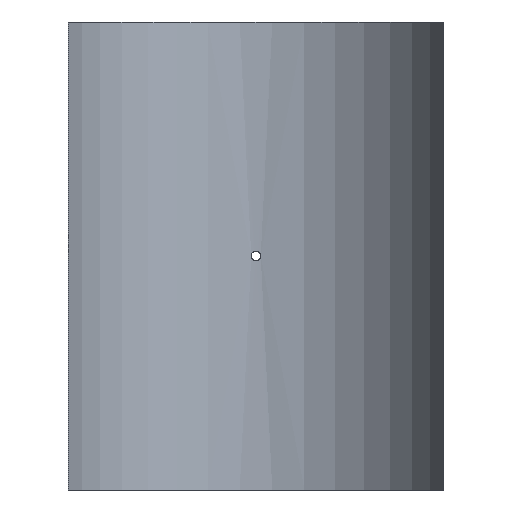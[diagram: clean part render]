
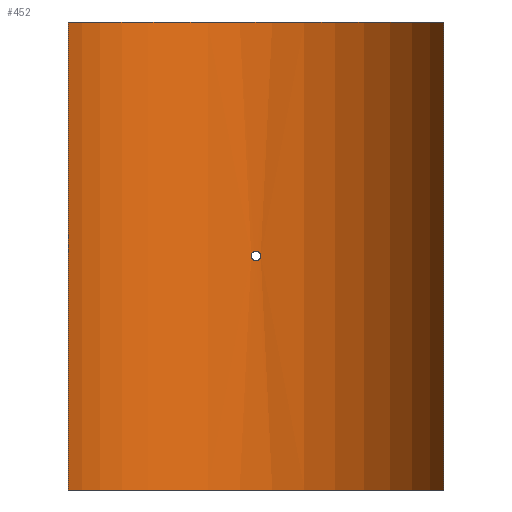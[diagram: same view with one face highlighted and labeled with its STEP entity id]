
A CAD part, front view. The second image highlights one B-rep face of the part: STEP entity #452.
In plain terms, the highlighted cylindrical face has radius 200 mm (diameter 400 mm), a partial arc.
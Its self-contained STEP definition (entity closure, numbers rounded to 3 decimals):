
#19=B_SPLINE_CURVE_WITH_KNOTS('',3,(#788,#789,#790,#791,#792,#793,#794,
#795,#796,#797,#798,#799,#800,#801,#802,#803,#804,#805,#806,#807,#808,#809,
#810,#811,#812,#813,#814,#815,#816,#817,#818,#819,#820,#821),
 .UNSPECIFIED.,.T.,.F.,(4,2,2,2,2,2,2,2,2,2,2,2,2,2,2,2,4),(0.,0.181,
0.362,0.542,0.723,0.904,
1.085,1.266,1.447,1.627,1.808,
1.989,2.17,2.351,2.531,2.712,
2.893),.UNSPECIFIED.);
#43=LINE('',#1065,#62);
#44=LINE('',#1068,#63);
#62=VECTOR('',#661,10.);
#63=VECTOR('',#664,10.);
#76=CYLINDRICAL_SURFACE('',#530,200.);
#88=FACE_BOUND('',#167,.T.);
#127=FACE_OUTER_BOUND('',#166,.T.);
#166=EDGE_LOOP('',(#405,#406,#407,#408));
#167=EDGE_LOOP('',(#409));
#201=CIRCLE('',#529,200.);
#202=CIRCLE('',#531,200.);
#219=VERTEX_POINT('',#786);
#242=VERTEX_POINT('',#1058);
#243=VERTEX_POINT('',#1060);
#244=VERTEX_POINT('',#1064);
#245=VERTEX_POINT('',#1066);
#267=EDGE_CURVE('',#219,#219,#19,.T.);
#299=EDGE_CURVE('',#242,#243,#201,.T.);
#301=EDGE_CURVE('',#244,#242,#43,.T.);
#302=EDGE_CURVE('',#245,#244,#202,.T.);
#303=EDGE_CURVE('',#245,#243,#44,.T.);
#405=ORIENTED_EDGE('',*,*,#301,.F.);
#406=ORIENTED_EDGE('',*,*,#302,.F.);
#407=ORIENTED_EDGE('',*,*,#303,.T.);
#408=ORIENTED_EDGE('',*,*,#299,.F.);
#409=ORIENTED_EDGE('',*,*,#267,.T.);
#452=ADVANCED_FACE('',(#127,#88),#76,.F.);
#529=AXIS2_PLACEMENT_3D('',#1061,#656,#657);
#530=AXIS2_PLACEMENT_3D('',#1063,#659,#660);
#531=AXIS2_PLACEMENT_3D('',#1067,#662,#663);
#656=DIRECTION('center_axis',(0.,0.,1.));
#657=DIRECTION('ref_axis',(0.943,0.334,0.));
#659=DIRECTION('center_axis',(0.,0.,1.));
#660=DIRECTION('ref_axis',(0.943,0.334,0.));
#661=DIRECTION('',(0.,0.,-1.));
#662=DIRECTION('center_axis',(0.,0.,-1.));
#663=DIRECTION('ref_axis',(0.943,0.334,0.));
#664=DIRECTION('',(0.,0.,-1.));
#786=CARTESIAN_POINT('',(4.8,199.942,0.));
#788=CARTESIAN_POINT('Ctrl Pts',(4.8,199.942,0.));
#789=CARTESIAN_POINT('Ctrl Pts',(4.8,199.942,-0.603));
#790=CARTESIAN_POINT('Ctrl Pts',(4.68,199.945,-1.246));
#791=CARTESIAN_POINT('Ctrl Pts',(4.19,199.956,-2.428));
#792=CARTESIAN_POINT('Ctrl Pts',(3.82,199.964,-2.968));
#793=CARTESIAN_POINT('Ctrl Pts',(2.968,199.978,-3.82));
#794=CARTESIAN_POINT('Ctrl Pts',(2.428,199.986,-4.19));
#795=CARTESIAN_POINT('Ctrl Pts',(1.246,199.997,-4.68));
#796=CARTESIAN_POINT('Ctrl Pts',(0.603,200.,-4.8));
#797=CARTESIAN_POINT('Ctrl Pts',(-0.603,200.,-4.8));
#798=CARTESIAN_POINT('Ctrl Pts',(-1.246,199.997,-4.68));
#799=CARTESIAN_POINT('Ctrl Pts',(-2.428,199.986,-4.19));
#800=CARTESIAN_POINT('Ctrl Pts',(-2.968,199.978,-3.82));
#801=CARTESIAN_POINT('Ctrl Pts',(-3.82,199.964,-2.968));
#802=CARTESIAN_POINT('Ctrl Pts',(-4.19,199.956,-2.428));
#803=CARTESIAN_POINT('Ctrl Pts',(-4.68,199.945,-1.246));
#804=CARTESIAN_POINT('Ctrl Pts',(-4.8,199.942,-0.603));
#805=CARTESIAN_POINT('Ctrl Pts',(-4.8,199.942,0.603));
#806=CARTESIAN_POINT('Ctrl Pts',(-4.68,199.945,1.246));
#807=CARTESIAN_POINT('Ctrl Pts',(-4.19,199.956,2.428));
#808=CARTESIAN_POINT('Ctrl Pts',(-3.82,199.964,2.968));
#809=CARTESIAN_POINT('Ctrl Pts',(-2.968,199.978,3.82));
#810=CARTESIAN_POINT('Ctrl Pts',(-2.428,199.986,4.19));
#811=CARTESIAN_POINT('Ctrl Pts',(-1.246,199.997,4.68));
#812=CARTESIAN_POINT('Ctrl Pts',(-0.603,200.,4.8));
#813=CARTESIAN_POINT('Ctrl Pts',(0.603,200.,4.8));
#814=CARTESIAN_POINT('Ctrl Pts',(1.246,199.997,4.68));
#815=CARTESIAN_POINT('Ctrl Pts',(2.428,199.986,4.19));
#816=CARTESIAN_POINT('Ctrl Pts',(2.968,199.978,3.82));
#817=CARTESIAN_POINT('Ctrl Pts',(3.82,199.964,2.968));
#818=CARTESIAN_POINT('Ctrl Pts',(4.19,199.956,2.428));
#819=CARTESIAN_POINT('Ctrl Pts',(4.68,199.945,1.246));
#820=CARTESIAN_POINT('Ctrl Pts',(4.8,199.942,0.603));
#821=CARTESIAN_POINT('Ctrl Pts',(4.8,199.942,0.));
#1058=CARTESIAN_POINT('',(188.5,66.841,-235.));
#1060=CARTESIAN_POINT('',(-188.5,66.841,-235.));
#1061=CARTESIAN_POINT('Origin',(0.,0.,
-235.));
#1063=CARTESIAN_POINT('Origin',(0.,0.,
0.));
#1064=CARTESIAN_POINT('',(188.5,66.841,235.));
#1065=CARTESIAN_POINT('',(188.5,66.841,0.));
#1066=CARTESIAN_POINT('',(-188.5,66.841,235.));
#1067=CARTESIAN_POINT('Origin',(0.,0.,
235.));
#1068=CARTESIAN_POINT('',(-188.5,66.841,0.));
